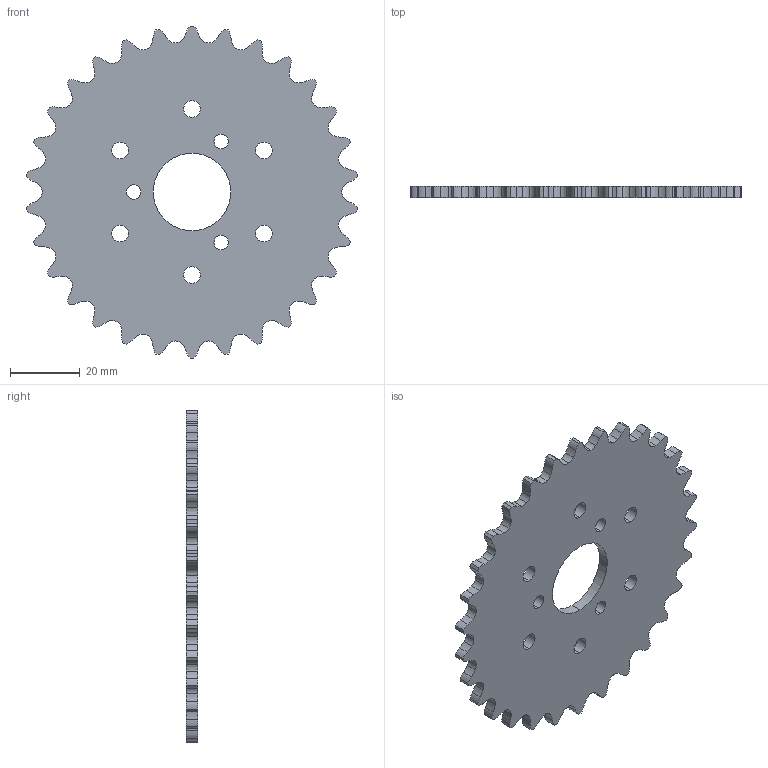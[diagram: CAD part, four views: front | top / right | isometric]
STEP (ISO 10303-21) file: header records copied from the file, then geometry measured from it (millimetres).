
FILE_DESCRIPTION (( 'STEP AP203' ), '1' );
FILE_NAME ('IFI-SPROCKET-35A30 RevB.STEP', '2006-11-03T17:41:27', ( 'Innovation First, Inc.' ), ( 'Innovation First, Inc.' ), 'SwSTEP 2.0', 'SolidWorks 2006052', '' );
FILE_SCHEMA (( 'CONFIG_CONTROL_DESIGN' ));
Length unit declared in the file: inch
Products named in the file (1): IFI-SPROCKET-35A30 RevB
Bounding box: 94.77 x 3.17 x 95.2 mm (x, y, z)
Volume: 18429.4 mm3; surface area: 13594.2 mm2
Topology: 1 solids, 1 shells, 250 faces, 744 edges, 496 vertices
Faces by surface type: cylinder 218, plane 32
Entity records: 8763 total; most frequent: DIRECTION 1682, CARTESIAN_POINT 1491, ORIENTED_EDGE 1488, EDGE_CURVE 744, AXIS2_PLACEMENT_3D 687, VERTEX_POINT 496, CIRCLE 436, VECTOR 308
